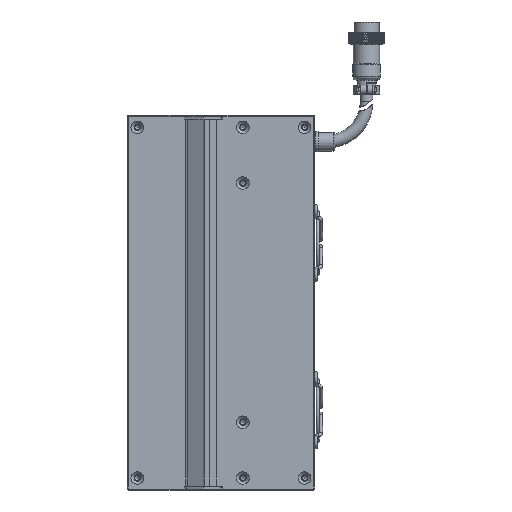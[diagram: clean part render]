
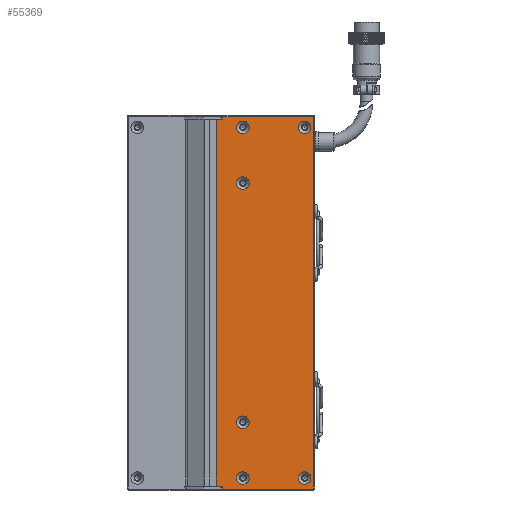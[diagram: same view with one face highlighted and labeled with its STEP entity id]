
A CAD part, left-side view. The second image highlights one B-rep face of the part: STEP entity #55369.
In plain terms, the highlighted planar face has unit normal (-1, 0, 0).
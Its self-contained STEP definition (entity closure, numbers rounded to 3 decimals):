
#371 = VECTOR ( 'NONE', #117457, 1000. ) ;
#1996 = CIRCLE ( 'NONE', #121485, 3.15 ) ;
#2743 = VERTEX_POINT ( 'NONE', #5200 ) ;
#2751 = CARTESIAN_POINT ( 'NONE',  ( -24.998, -72.5, 93.5 ) ) ;
#3749 = EDGE_CURVE ( 'NONE', #80182, #11250, #36824, .T. ) ;
#4765 = VERTEX_POINT ( 'NONE', #7207 ) ;
#5200 = CARTESIAN_POINT ( 'NONE',  ( -24.998, -26.5, -93.5 ) ) ;
#6529 = ORIENTED_EDGE ( 'NONE', *, *, #110347, .F. ) ;
#6877 = DIRECTION ( 'NONE',  ( 0., -1., 0. ) ) ;
#7207 = CARTESIAN_POINT ( 'NONE',  ( -24.998, -23.25, -92. ) ) ;
#7264 = VERTEX_POINT ( 'NONE', #31810 ) ;
#9013 = VECTOR ( 'NONE', #52473, 1000. ) ;
#9350 = VECTOR ( 'NONE', #85572, 1000. ) ;
#9427 = CIRCLE ( 'NONE', #123348, 3.15 ) ;
#9687 = DIRECTION ( 'NONE',  ( 0., 0., 1. ) ) ;
#11250 = VERTEX_POINT ( 'NONE', #23993 ) ;
#11451 = CARTESIAN_POINT ( 'NONE',  ( -24.998, -26.5, 85. ) ) ;
#13112 = CARTESIAN_POINT ( 'NONE',  ( -24.998, -23.25, -92. ) ) ;
#13220 = CARTESIAN_POINT ( 'NONE',  ( -24.998, -36.5, 60. ) ) ;
#13338 = VERTEX_POINT ( 'NONE', #115542 ) ;
#13609 = EDGE_CURVE ( 'NONE', #45238, #45238, #9427, .T. ) ;
#13798 = FACE_BOUND ( 'NONE', #84430, .T. ) ;
#15521 = DIRECTION ( 'NONE',  ( 0., 0., 1. ) ) ;
#15988 = ORIENTED_EDGE ( 'NONE', *, *, #90590, .F. ) ;
#17434 = ORIENTED_EDGE ( 'NONE', *, *, #3749, .T. ) ;
#19443 = AXIS2_PLACEMENT_3D ( 'NONE', #97948, #99199, #107243 ) ;
#19523 = DIRECTION ( 'NONE',  ( 0., 0., 1. ) ) ;
#19831 = CARTESIAN_POINT ( 'NONE',  ( -24.998, -36.5, -60. ) ) ;
#22600 = EDGE_LOOP ( 'NONE', ( #15988 ) ) ;
#23993 = CARTESIAN_POINT ( 'NONE',  ( -24.998, -72., 93.5 ) ) ;
#24437 = ORIENTED_EDGE ( 'NONE', *, *, #86100, .F. ) ;
#25563 = EDGE_LOOP ( 'NONE', ( #6529 ) ) ;
#26132 = LINE ( 'NONE', #109432, #371 ) ;
#27113 = ORIENTED_EDGE ( 'NONE', *, *, #113817, .T. ) ;
#28747 = AXIS2_PLACEMENT_3D ( 'NONE', #19831, #97675, #9687 ) ;
#31140 = AXIS2_PLACEMENT_3D ( 'NONE', #42711, #51671, #52082 ) ;
#31810 = CARTESIAN_POINT ( 'NONE',  ( -24.998, -36.5, -84.85 ) ) ;
#31879 = ORIENTED_EDGE ( 'NONE', *, *, #39982, .F. ) ;
#33734 = CARTESIAN_POINT ( 'NONE',  ( -24.998, -36.5, 88. ) ) ;
#33991 = CIRCLE ( 'NONE', #31140, 3.15 ) ;
#34456 = VERTEX_POINT ( 'NONE', #115278 ) ;
#34567 = VERTEX_POINT ( 'NONE', #49637 ) ;
#35087 = EDGE_CURVE ( 'NONE', #40904, #100641, #103127, .T. ) ;
#35346 = EDGE_CURVE ( 'NONE', #34456, #100641, #91012, .T. ) ;
#36055 = CARTESIAN_POINT ( 'NONE',  ( -24.998, -72.5, -92. ) ) ;
#36824 = LINE ( 'NONE', #78806, #80809 ) ;
#37217 = PLANE ( 'NONE',  #82894 ) ;
#38178 = CARTESIAN_POINT ( 'NONE',  ( -24.998, -36.5, 63.15 ) ) ;
#39239 = DIRECTION ( 'NONE',  ( -1., 0., 0. ) ) ;
#39507 = FACE_BOUND ( 'NONE', #85052, .T. ) ;
#39982 = EDGE_CURVE ( 'NONE', #4765, #40904, #122461, .T. ) ;
#40492 = VERTEX_POINT ( 'NONE', #99912 ) ;
#40904 = VERTEX_POINT ( 'NONE', #85497 ) ;
#42711 = CARTESIAN_POINT ( 'NONE',  ( -24.998, -67.5, -88. ) ) ;
#45238 = VERTEX_POINT ( 'NONE', #38178 ) ;
#46984 = DIRECTION ( 'NONE',  ( 0., 0., -1. ) ) ;
#47037 = FACE_BOUND ( 'NONE', #22600, .T. ) ;
#49637 = CARTESIAN_POINT ( 'NONE',  ( -24.998, -67.5, -84.85 ) ) ;
#50903 = DIRECTION ( 'NONE',  ( 0., 0., 1. ) ) ;
#51671 = DIRECTION ( 'NONE',  ( -1., 0., 0. ) ) ;
#52082 = DIRECTION ( 'NONE',  ( 0., 0., 1. ) ) ;
#52473 = DIRECTION ( 'NONE',  ( 0., 0., 1. ) ) ;
#55369 = ADVANCED_FACE ( 'NONE', ( #95487, #47037, #94032, #13798, #68281, #39507, #113626 ), #37217, .F. ) ;
#55992 = LINE ( 'NONE', #2751, #122574 ) ;
#58707 = EDGE_CURVE ( 'NONE', #34567, #34567, #33991, .T. ) ;
#59246 = ORIENTED_EDGE ( 'NONE', *, *, #75232, .F. ) ;
#59614 = CARTESIAN_POINT ( 'NONE',  ( -24.998, -72., -93.5 ) ) ;
#59748 = CARTESIAN_POINT ( 'NONE',  ( -24.998, -36.5, -56.85 ) ) ;
#60064 = VERTEX_POINT ( 'NONE', #78282 ) ;
#60682 = ORIENTED_EDGE ( 'NONE', *, *, #58707, .F. ) ;
#60785 = VECTOR ( 'NONE', #68565, 1000. ) ;
#61451 = DIRECTION ( 'NONE',  ( -1., 0., 0. ) ) ;
#62096 = EDGE_LOOP ( 'NONE', ( #59246 ) ) ;
#68281 = FACE_BOUND ( 'NONE', #25563, .T. ) ;
#68456 = ORIENTED_EDGE ( 'NONE', *, *, #13609, .F. ) ;
#68565 = DIRECTION ( 'NONE',  ( 0., 0., -1. ) ) ;
#69862 = VECTOR ( 'NONE', #6877, 1000. ) ;
#70824 = DIRECTION ( 'NONE',  ( 0., 1., 0. ) ) ;
#74171 = LINE ( 'NONE', #81903, #113457 ) ;
#75232 = EDGE_CURVE ( 'NONE', #13338, #13338, #1996, .T. ) ;
#78282 = CARTESIAN_POINT ( 'NONE',  ( -24.998, -26.5, -92. ) ) ;
#78428 = EDGE_CURVE ( 'NONE', #2743, #80182, #74171, .T. ) ;
#78806 = CARTESIAN_POINT ( 'NONE',  ( -24.998, -72., 92. ) ) ;
#80182 = VERTEX_POINT ( 'NONE', #59614 ) ;
#80809 = VECTOR ( 'NONE', #50903, 1000. ) ;
#81577 = DIRECTION ( 'NONE',  ( -1., 0., 0. ) ) ;
#81903 = CARTESIAN_POINT ( 'NONE',  ( -24.998, -72.5, -93.5 ) ) ;
#82894 = AXIS2_PLACEMENT_3D ( 'NONE', #94808, #95219, #46984 ) ;
#84430 = EDGE_LOOP ( 'NONE', ( #24437 ) ) ;
#85052 = EDGE_LOOP ( 'NONE', ( #68456 ) ) ;
#85250 = EDGE_CURVE ( 'NONE', #11250, #34456, #55992, .T. ) ;
#85497 = CARTESIAN_POINT ( 'NONE',  ( -24.998, -23.25, 92. ) ) ;
#85572 = DIRECTION ( 'NONE',  ( 0., -1., 0. ) ) ;
#86100 = EDGE_CURVE ( 'NONE', #40492, #40492, #114920, .T. ) ;
#90590 = EDGE_CURVE ( 'NONE', #7264, #7264, #125257, .T. ) ;
#91012 = LINE ( 'NONE', #11451, #60785 ) ;
#94032 = FACE_BOUND ( 'NONE', #62096, .T. ) ;
#94808 = CARTESIAN_POINT ( 'NONE',  ( -24.998, -72.5, 92. ) ) ;
#95219 = DIRECTION ( 'NONE',  ( 1., 0., 0. ) ) ;
#95487 = FACE_BOUND ( 'NONE', #121059, .T. ) ;
#97197 = CARTESIAN_POINT ( 'NONE',  ( -24.998, -67.5, 88. ) ) ;
#97675 = DIRECTION ( 'NONE',  ( -1., 0., 0. ) ) ;
#97948 = CARTESIAN_POINT ( 'NONE',  ( -24.998, -36.5, -88. ) ) ;
#99199 = DIRECTION ( 'NONE',  ( -1., 0., 0. ) ) ;
#99912 = CARTESIAN_POINT ( 'NONE',  ( -24.998, -67.5, 91.15 ) ) ;
#100641 = VERTEX_POINT ( 'NONE', #121363 ) ;
#103127 = LINE ( 'NONE', #122711, #69862 ) ;
#104749 = LINE ( 'NONE', #36055, #9350 ) ;
#105633 = EDGE_LOOP ( 'NONE', ( #27113, #109074, #112630, #17434, #106626, #123501, #115878, #31879 ) ) ;
#106626 = ORIENTED_EDGE ( 'NONE', *, *, #85250, .T. ) ;
#106906 = DIRECTION ( 'NONE',  ( 0., 0., 1. ) ) ;
#107243 = DIRECTION ( 'NONE',  ( 0., 0., 1. ) ) ;
#109074 = ORIENTED_EDGE ( 'NONE', *, *, #113539, .T. ) ;
#109432 = CARTESIAN_POINT ( 'NONE',  ( -24.998, -26.5, -85. ) ) ;
#110347 = EDGE_CURVE ( 'NONE', #125178, #125178, #118667, .T. ) ;
#112630 = ORIENTED_EDGE ( 'NONE', *, *, #78428, .T. ) ;
#113457 = VECTOR ( 'NONE', #119042, 1000. ) ;
#113539 = EDGE_CURVE ( 'NONE', #60064, #2743, #26132, .T. ) ;
#113626 = FACE_OUTER_BOUND ( 'NONE', #105633, .T. ) ;
#113817 = EDGE_CURVE ( 'NONE', #4765, #60064, #104749, .T. ) ;
#114920 = CIRCLE ( 'NONE', #123737, 3.15 ) ;
#115278 = CARTESIAN_POINT ( 'NONE',  ( -24.998, -26.5, 93.5 ) ) ;
#115542 = CARTESIAN_POINT ( 'NONE',  ( -24.998, -36.5, 91.15 ) ) ;
#115878 = ORIENTED_EDGE ( 'NONE', *, *, #35087, .F. ) ;
#117457 = DIRECTION ( 'NONE',  ( 0., 0., -1. ) ) ;
#118667 = CIRCLE ( 'NONE', #28747, 3.15 ) ;
#119042 = DIRECTION ( 'NONE',  ( 0., -1., 0. ) ) ;
#121059 = EDGE_LOOP ( 'NONE', ( #60682 ) ) ;
#121363 = CARTESIAN_POINT ( 'NONE',  ( -24.998, -26.5, 92. ) ) ;
#121485 = AXIS2_PLACEMENT_3D ( 'NONE', #33734, #81577, #15521 ) ;
#122461 = LINE ( 'NONE', #13112, #9013 ) ;
#122574 = VECTOR ( 'NONE', #70824, 1000. ) ;
#122711 = CARTESIAN_POINT ( 'NONE',  ( -24.998, -72.5, 92. ) ) ;
#123348 = AXIS2_PLACEMENT_3D ( 'NONE', #13220, #61451, #19523 ) ;
#123501 = ORIENTED_EDGE ( 'NONE', *, *, #35346, .T. ) ;
#123737 = AXIS2_PLACEMENT_3D ( 'NONE', #97197, #39239, #106906 ) ;
#125178 = VERTEX_POINT ( 'NONE', #59748 ) ;
#125257 = CIRCLE ( 'NONE', #19443, 3.15 ) ;
